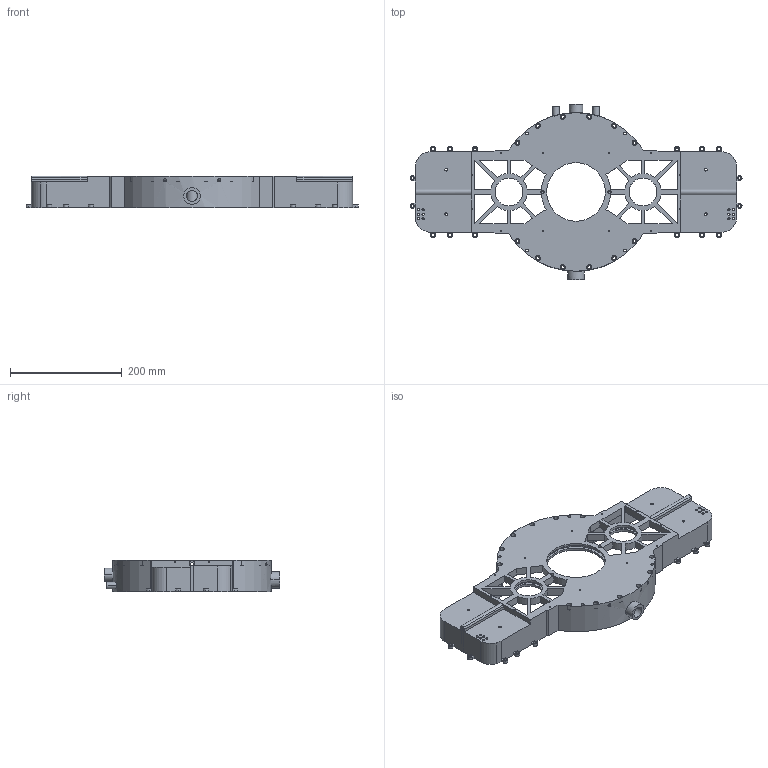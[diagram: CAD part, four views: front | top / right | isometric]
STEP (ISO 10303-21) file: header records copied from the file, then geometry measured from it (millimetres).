
FILE_DESCRIPTION(('STEP AP214'),'1');
FILE_NAME('C:/Users/mashimo/Documents/次世代エンジン/ボア６ｃｍ/TurboCAD/3D/tmp0.STEP','2025-07-11T09:04:24',(' '),(' '),'Spatial InterOp 3D',' ',' ');
FILE_SCHEMA(('automotive_design'));
Length unit declared in the file: millimetre
Products named in the file (1): 1
Bounding box: 595 x 314 x 56 mm (x, y, z)
Volume: 766964.7 mm3; surface area: 428470.2 mm2
Topology: 1 solids, 1 shells, 675 faces, 1962 edges, 1292 vertices
Faces by surface type: cylinder 418, plane 257
Entity records: 30081 total; most frequent: CARTESIAN_POINT 5853, DIRECTION 4032, ORIENTED_EDGE 3924, EDGE_CURVE 1962, AXIS2_PLACEMENT_3D 1482, VERTEX_POINT 1292, LINE 1068, VECTOR 1068
